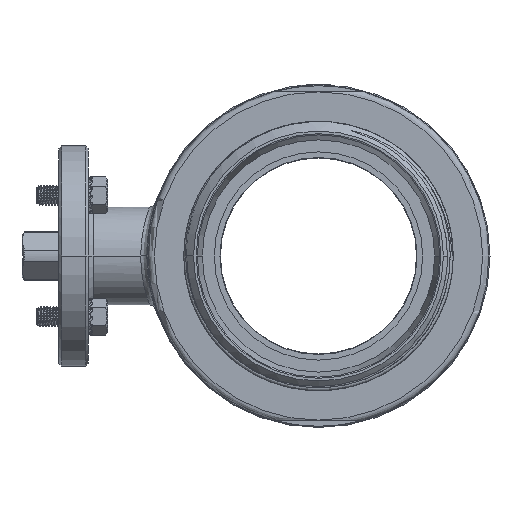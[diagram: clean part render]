
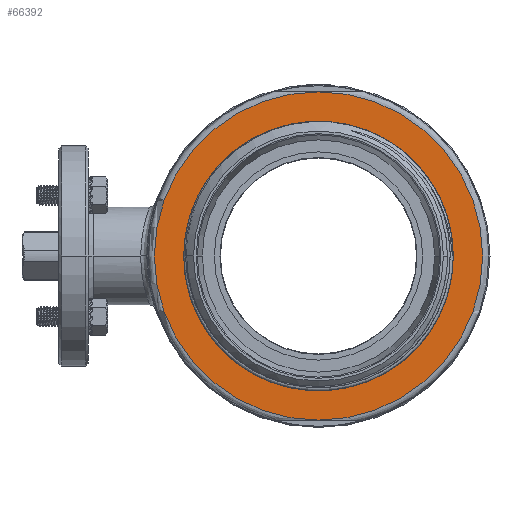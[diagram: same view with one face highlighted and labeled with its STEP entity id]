
A CAD part, left-side view. The second image highlights one B-rep face of the part: STEP entity #66392.
In plain terms, the highlighted planar face has unit normal (-1, 0, 0).
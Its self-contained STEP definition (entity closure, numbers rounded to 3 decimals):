
#8318=CARTESIAN_POINT('',(-65.,55.,0.));
#9990=CARTESIAN_POINT('',(-65.,0.,0.));
#9991=DIRECTION('',(-1.,0.,0.));
#9992=DIRECTION('',(0.,-1.,0.));
#9993=AXIS2_PLACEMENT_3D('',#9990,#9991,#9992);
#9998=CARTESIAN_POINT('',(-65.,0.,0.));
#9999=DIRECTION('',(1.,0.,0.));
#10000=DIRECTION('',(0.,-1.,0.));
#10001=AXIS2_PLACEMENT_3D('',#9998,#9999,#10000);
#10006=CARTESIAN_POINT('',(-65.,0.,0.));
#10007=DIRECTION('',(-1.,0.,0.));
#10008=DIRECTION('',(0.,0.,-1.));
#10009=AXIS2_PLACEMENT_3D('',#10006,#10007,#10008);
#10052=CARTESIAN_POINT('',(-65.,0.,
67.));
#10122=CARTESIAN_POINT('',(-65.,0.,0.));
#10123=DIRECTION('',(-1.,0.,0.));
#10124=DIRECTION('',(0.,0.,1.));
#10125=AXIS2_PLACEMENT_3D('',#10122,#10123,#10124);
#10258=CARTESIAN_POINT('',(-65.,0.,
-67.));
#57792=VERTEX_POINT('',#10258);
#57795=VERTEX_POINT('',#10052);
#57817=VERTEX_POINT('',#8318);
#57842=CARTESIAN_POINT('',(-65.,-55.,0.));
#57843=VERTEX_POINT('',#57842);
#66377=CARTESIAN_POINT('',(-65.,0.,0.));
#66378=DIRECTION('',(-1.,0.,0.));
#66379=DIRECTION('',(0.,1.,0.));
#66380=AXIS2_PLACEMENT_3D('',#66377,#66378,#66379);
#66381=PLANE('',#66380);
#66383=ORIENTED_EDGE('',*,*,#66382,.F.);
#66385=ORIENTED_EDGE('',*,*,#66384,.F.);
#66386=EDGE_LOOP('',(#66383,#66385));
#66387=FACE_OUTER_BOUND('',#66386,.F.);
#66388=ORIENTED_EDGE('',*,*,#64359,.T.);
#66389=ORIENTED_EDGE('',*,*,#66372,.F.);
#66390=EDGE_LOOP('',(#66388,#66389));
#66391=FACE_BOUND('',#66390,.F.);
#66392=ADVANCED_FACE('',(#66387,#66391),#66381,.T.);
#9994=CIRCLE('',#9993,55.);
#10002=CIRCLE('',#10001,55.);
#10010=CIRCLE('',#10009,67.);
#10126=CIRCLE('',#10125,67.);
#64359=EDGE_CURVE('',#57843,#57817,#9994,.T.);
#66372=EDGE_CURVE('',#57843,#57817,#10002,.T.);
#66382=EDGE_CURVE('',#57792,#57795,#10010,.T.);
#66384=EDGE_CURVE('',#57795,#57792,#10126,.T.);
